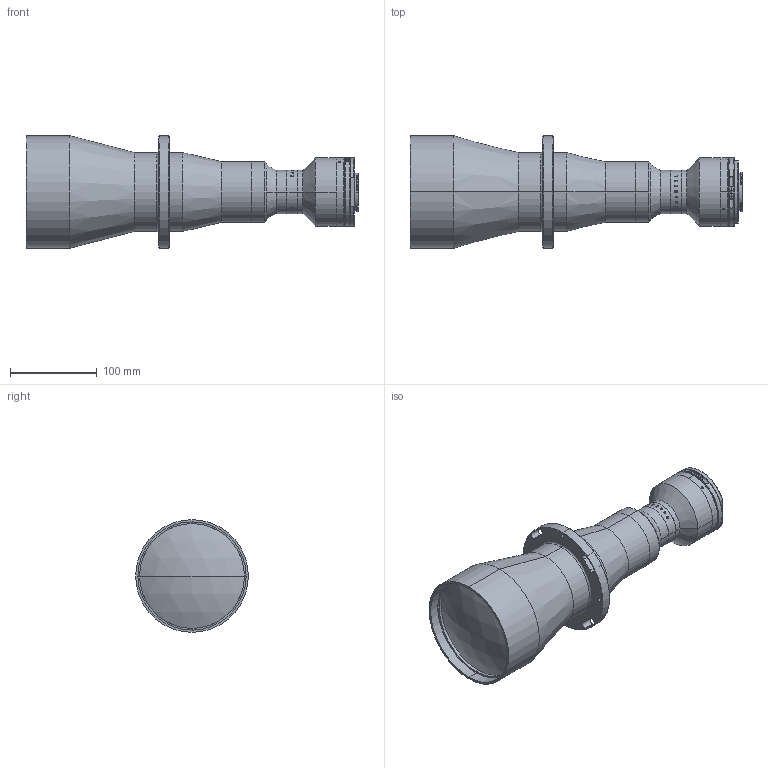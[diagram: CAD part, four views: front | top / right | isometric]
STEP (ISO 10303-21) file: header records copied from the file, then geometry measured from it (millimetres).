
FILE_DESCRIPTION (( 'STEP AP203' ), '1' );
FILE_NAME ('XF-PTL11029-F-(HD).STEP', '2019-02-21T07:15:10', ( 'puyufan' ), ( '' ), 'SwSTEP 2.0', 'SolidWorks 2014', '' );
FILE_SCHEMA (( 'CONFIG_CONTROL_DESIGN' ));
Length unit declared in the file: millimetre
Products named in the file (1): XF-PTL11029-F-(HD)
Bounding box: 383.06 x 130 x 130 mm (x, y, z)
Surface area: 170772.2 mm2 (no closed solid volume)
Topology: 0 solids, 31 shells, 217 faces, 1102 edges, 918 vertices
Faces by surface type: cylinder 112, plane 63, cone 24, torus 10, sphere 4, bspline 4
Entity records: 17333 total; most frequent: CARTESIAN_POINT 8927, DIRECTION 1659, ORIENTED_EDGE 1509, EDGE_CURVE 1100, VERTEX_POINT 918, AXIS2_PLACEMENT_3D 649, CIRCLE 435, VECTOR 361
